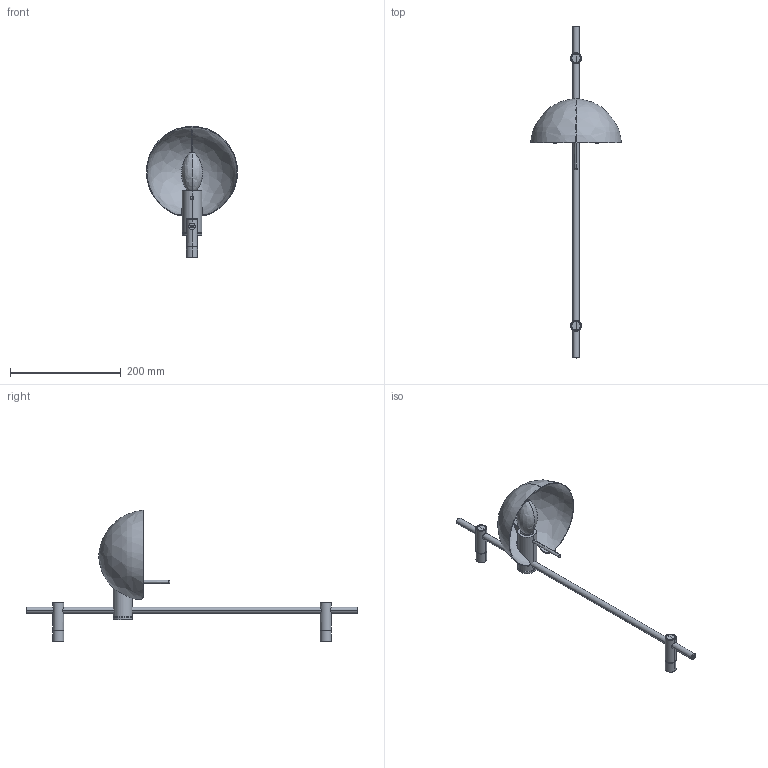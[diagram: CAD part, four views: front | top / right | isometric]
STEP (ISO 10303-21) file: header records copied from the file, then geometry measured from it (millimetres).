
FILE_DESCRIPTION(/* description */ (''),/* implementation_level */ '2;1');
FILE_NAME(/* name */ 'matilda_wallmovablelamp.step',/* time_stamp */ '2024-10-31T11:05:04+01:00',/* author */ ('RenataManzini'),/* organization */ (''),/* preprocessor_version */ 'ST-DEVELOPER v20',/* originating_system */ 'AutoCAD Mechanical',/* authorisation */ '');
FILE_SCHEMA (('AUTOMOTIVE_DESIGN { 1 0 10303 214 3 1 1 }'));
Length unit declared in the file: millimetre
Products named in the file (5): Product; matilda_pantalla - Lamp Holder-482302-_3D_; FamilyGeomCombination_478760-_3D_; FamilyGeomCombination_479452-_3D_; FamilyGeomCombination_479453-_3D_
Assembly tree (4 placements, depth 2):
  Product
    matilda_pantalla - Lamp Holder-482302-_3D_
    FamilyGeomCombination_478760-_3D_
    FamilyGeomCombination_479452-_3D_
    FamilyGeomCombination_479453-_3D_
Bounding box: 164.8 x 600 x 237.19 mm (x, y, z)
Volume: 196415.4 mm3; surface area: 134734 mm2
Topology: 7 solids, 10 shells, 131 faces, 334 edges, 203 vertices
Faces by surface type: plane 65, cylinder 48, bspline 10, torus 4, cone 2, sphere 2
Entity records: 4659 total; most frequent: CARTESIAN_POINT 1587, DIRECTION 618, ORIENTED_EDGE 584, EDGE_CURVE 324, AXIS2_PLACEMENT_3D 227, VERTEX_POINT 203, LINE 164, VECTOR 164
